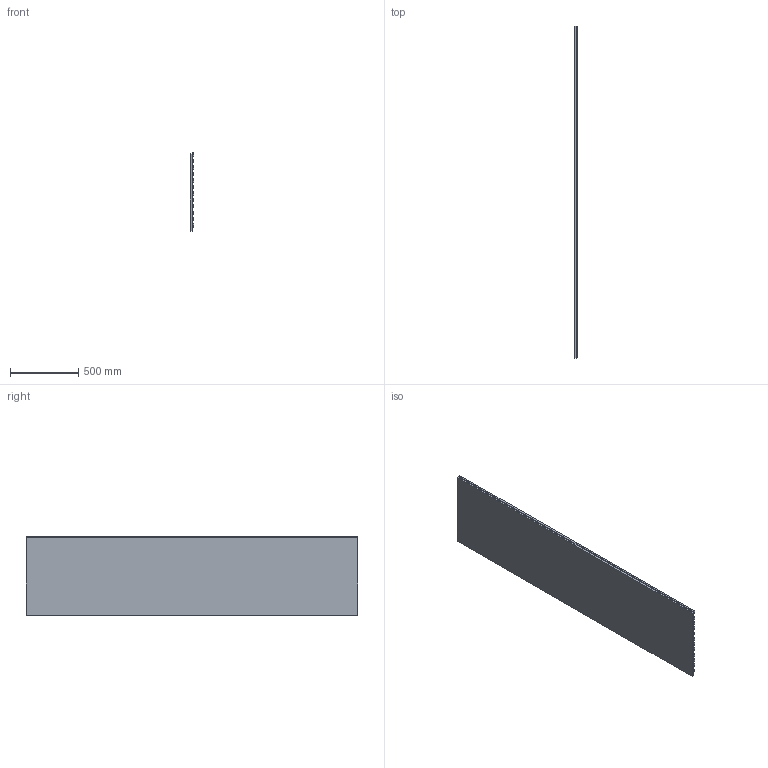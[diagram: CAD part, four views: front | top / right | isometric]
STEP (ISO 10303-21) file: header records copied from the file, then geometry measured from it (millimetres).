
FILE_DESCRIPTION(/* description */ (''),/* implementation_level */ '2;1');
FILE_NAME(/* name */ 'Y:\Design and Engineering\MaterialLogiq\CAD ASSETS\MASTER\POLYGRILLE\WEB ASSETS\SLATTA_1x0.875.stp',/* time_stamp */ '2023-11-14T14:09:45-06:00',/* author */ ('Grant Baker'),/* organization */ (''),/* preprocessor_version */ 'ST-DEVELOPER v19',/* originating_system */ 'Autodesk Inventor 2023',/* authorisation */ '');
FILE_SCHEMA (('AUTOMOTIVE_DESIGN { 1 0 10303 214 3 1 1 }'));
Length unit declared in the file: inch
Products named in the file (5): PolyGrilleAssembly; Backer; Slat; BackerTrim; SlatTrim
Assembly tree (26 placements, depth 2):
  PolyGrilleAssembly
    Backer
    Slat  x12
    BackerTrim
    SlatTrim  x12
Bounding box: 25.4 x 2438.4 x 577.85 mm (x, y, z)
Volume: 27136978 mm3; surface area: 5100957.5 mm2
Topology: 13 solids, 13 shells, 78 faces, 156 edges, 104 vertices
Faces by surface type: plane 78
Entity records: 674 total; most frequent: DIRECTION 110, CARTESIAN_POINT 83, ORIENTED_EDGE 48, AXIS2_PLACEMENT_3D 43, PRODUCT_DEFINITION_SHAPE 31, ITEM_DEFINED_TRANSFORMATION 26, CONTEXT_DEPENDENT_SHAPE_REPRESENTATION 26, NEXT_ASSEMBLY_USAGE_OCCURRENCE 26
